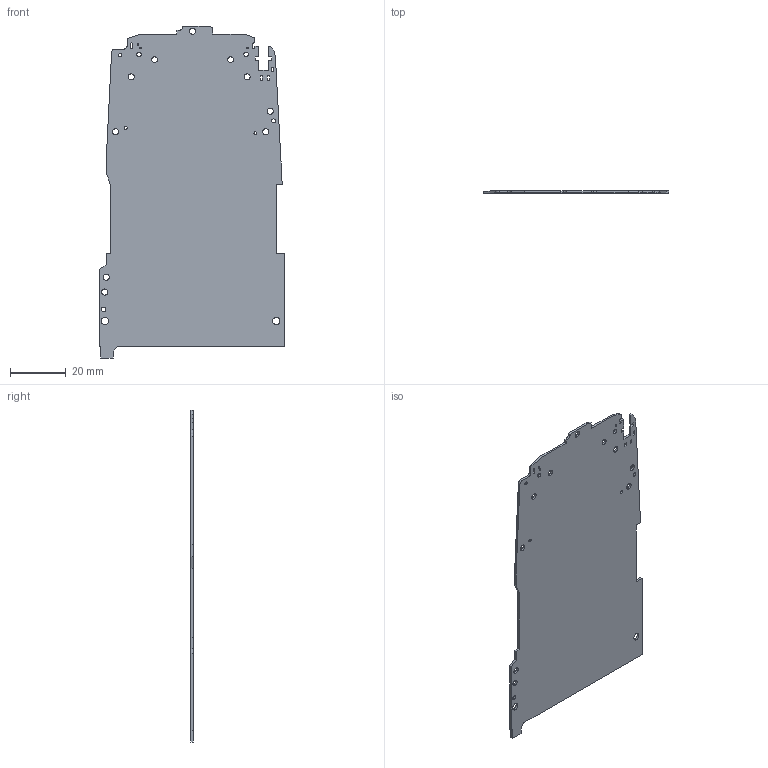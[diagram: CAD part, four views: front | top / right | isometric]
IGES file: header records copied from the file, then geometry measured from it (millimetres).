
Start section:  PTC IGES file: pcb_pcmcia_prt.igs
Global section: file name: pcb_pcmcia_prt.igs; native system: Pro/ENGINEER by Parametric Technology Corporation; preprocessor: 2000030; author: ECaille; organization: Unknown; date: 000803.092120; units: millimetre
Bounding box: 66.68 x 0.8 x 119.3 mm (x, y, z)
Surface area: 14169.2 mm2 (no closed solid volume)
Topology: 0 solids, 0 shells, 121 faces, 1146 edges, 1538 vertices
Faces by surface type: bspline 68, revolution 53
